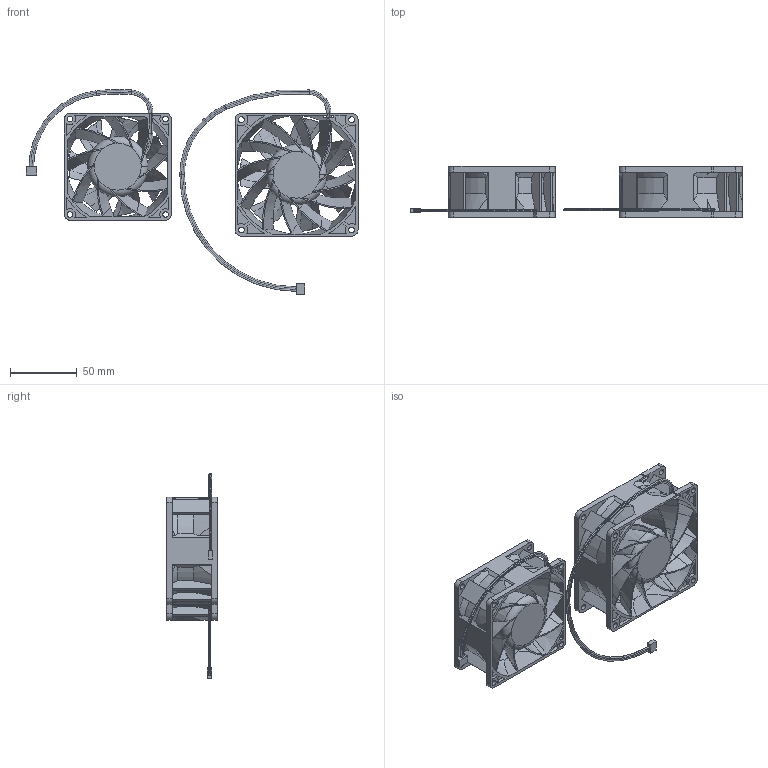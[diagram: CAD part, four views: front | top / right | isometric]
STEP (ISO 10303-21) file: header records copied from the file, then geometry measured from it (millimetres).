
FILE_DESCRIPTION(('STEP AP242'),'1');
FILE_NAME('vx5vps3002.stp','2021-09-28T20:32:01',('TraceParts'),('TraceParts S.A.'),'Spatial InterOp 3D',' ',' ');
FILE_SCHEMA(('AP242_MANAGED_MODEL_BASED_3D_ENGINEERING_MIM_LF {1 0 10303 442 1 1 4}'));
Length unit declared in the file: millimetre
Products named in the file (1): vx5vps3002_1
Bounding box: 248.33 x 38 x 153.41 mm (x, y, z)
Volume: 187426.8 mm3; surface area: 117102.5 mm2
Topology: 2 solids, 2 shells, 1005 faces, 2885 edges, 1894 vertices
Faces by surface type: plane 463, cylinder 226, bspline 154, torus 82, cone 80
Entity records: 38370 total; most frequent: CARTESIAN_POINT 13281, ORIENTED_EDGE 5770, DIRECTION 4534, EDGE_CURVE 2885, VERTEX_POINT 1894, AXIS2_PLACEMENT_3D 1636, LINE 1262, VECTOR 1262
